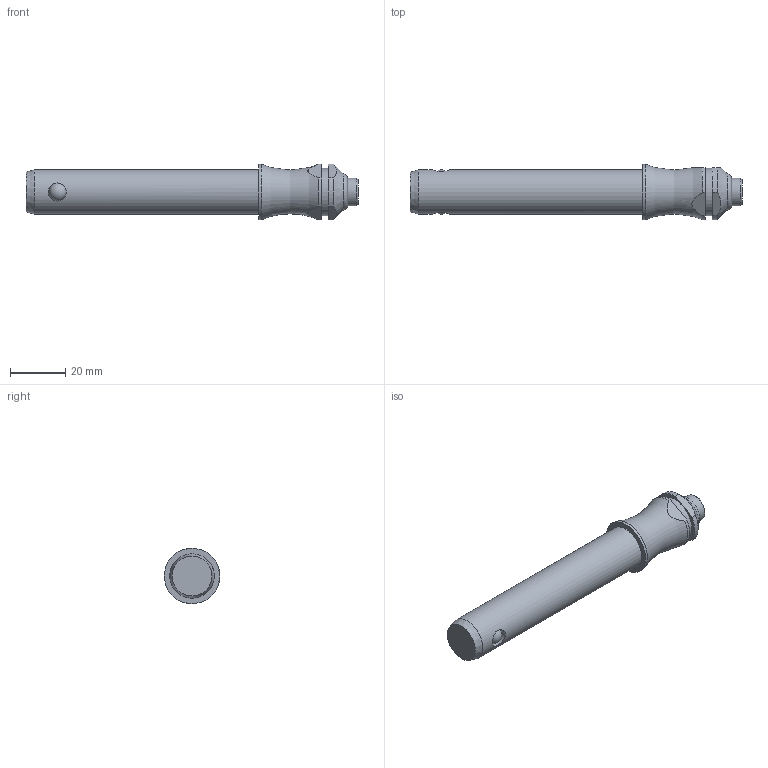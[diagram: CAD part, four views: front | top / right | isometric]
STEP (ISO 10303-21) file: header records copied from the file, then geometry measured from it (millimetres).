
FILE_DESCRIPTION( ( 'STEP AP203' ), '1' );
FILE_NAME( 'C:/Temp/Ganter_Step_05_03_2020/data/3_1/gn113_3/Stainless Steel-Ball lock pin GN 113.3-16-70 (activated).stp', '2020-03-12T08:18:55', ( 'License CC BY-ND 4.0' ), ( 'CADENAS' ), ' ', 'PARTsolutions', ' ' );
FILE_SCHEMA( ( 'CONFIG_CONTROL_DESIGN' ) );
Length unit declared in the file: millimetre
Products named in the file (1): _Stainless Steel-Ball lock pin GN 113.3-16-70 (activated)
Bounding box: 119.75 x 20 x 20 mm (x, y, z)
Volume: 24437.7 mm3; surface area: 6829.1 mm2
Topology: 1 solids, 1 shells, 30 faces, 68 edges, 43 vertices
Faces by surface type: cylinder 12, plane 11, cone 3, torus 2, sphere 2
Full cylindrical faces by diameter (mm): 6.5 x2, 10 x1, 16 x1, 17 x1, 20 x1
Entity records: 1014 total; most frequent: CARTESIAN_POINT 364, DIRECTION 130, ORIENTED_EDGE 102, AXIS2_PLACEMENT_3D 56, EDGE_CURVE 51, EDGE_LOOP 46, VERTEX_POINT 40, FACE_OUTER_BOUND 38
